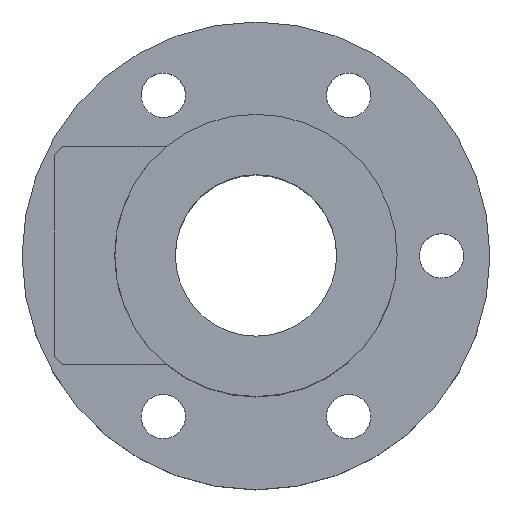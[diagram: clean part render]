
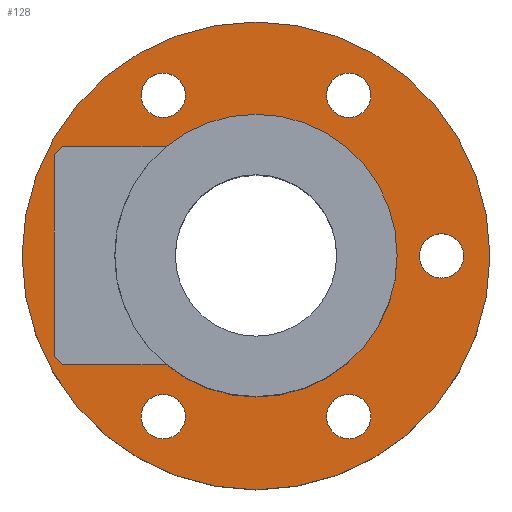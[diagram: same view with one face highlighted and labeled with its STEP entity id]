
A CAD part, top view. The second image highlights one B-rep face of the part: STEP entity #128.
In plain terms, the highlighted planar face has unit normal (0, 0, 1).
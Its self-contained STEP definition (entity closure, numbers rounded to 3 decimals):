
#97=PLANE('',#515);
#112=FACE_OUTER_BOUND('',#251,.T.);
#128=ADVANCED_FACE('',(#203,#204,#205,#112,#206,#207,#208),#97,.T.);
#203=FACE_BOUND('',#248,.T.);
#204=FACE_BOUND('',#249,.T.);
#205=FACE_BOUND('',#250,.T.);
#206=FACE_BOUND('',#252,.T.);
#207=FACE_BOUND('',#253,.T.);
#208=FACE_BOUND('',#254,.T.);
#248=EDGE_LOOP('',(#311));
#249=EDGE_LOOP('',(#312));
#250=EDGE_LOOP('',(#313));
#251=EDGE_LOOP('',(#314));
#252=EDGE_LOOP('',(#315));
#253=EDGE_LOOP('',(#316));
#254=EDGE_LOOP('',(#317));
#311=ORIENTED_EDGE('',*,*,#437,.F.);
#312=ORIENTED_EDGE('',*,*,#438,.F.);
#313=ORIENTED_EDGE('',*,*,#432,.F.);
#314=ORIENTED_EDGE('',*,*,#439,.T.);
#315=ORIENTED_EDGE('',*,*,#440,.F.);
#316=ORIENTED_EDGE('',*,*,#441,.F.);
#317=ORIENTED_EDGE('',*,*,#442,.F.);
#394=VERTEX_POINT('',#694);
#399=VERTEX_POINT('',#705);
#400=VERTEX_POINT('',#707);
#401=VERTEX_POINT('',#709);
#402=VERTEX_POINT('',#711);
#403=VERTEX_POINT('',#713);
#404=VERTEX_POINT('',#715);
#432=EDGE_CURVE('',#394,#394,#476,.T.);
#437=EDGE_CURVE('',#399,#399,#479,.T.);
#438=EDGE_CURVE('',#400,#400,#480,.T.);
#439=EDGE_CURVE('',#401,#401,#481,.T.);
#440=EDGE_CURVE('',#402,#402,#482,.T.);
#441=EDGE_CURVE('',#403,#403,#483,.T.);
#442=EDGE_CURVE('',#404,#404,#484,.T.);
#476=CIRCLE('',#505,17.5);
#479=CIRCLE('',#509,2.75);
#480=CIRCLE('',#510,2.75);
#481=CIRCLE('',#511,29.);
#482=CIRCLE('',#512,2.75);
#483=CIRCLE('',#513,2.75);
#484=CIRCLE('',#514,2.75);
#505=AXIS2_PLACEMENT_3D('',#693,#564,#565);
#509=AXIS2_PLACEMENT_3D('',#704,#574,#575);
#510=AXIS2_PLACEMENT_3D('',#706,#576,#577);
#511=AXIS2_PLACEMENT_3D('',#708,#578,#579);
#512=AXIS2_PLACEMENT_3D('',#710,#580,#581);
#513=AXIS2_PLACEMENT_3D('',#712,#582,#583);
#514=AXIS2_PLACEMENT_3D('',#714,#584,#585);
#515=AXIS2_PLACEMENT_3D('',#716,#586,#587);
#564=DIRECTION('',(0.,0.,1.));
#565=DIRECTION('',(1.,0.,0.));
#574=DIRECTION('',(0.,0.,1.));
#575=DIRECTION('',(-0.5,-0.866,0.));
#576=DIRECTION('',(0.,0.,1.));
#577=DIRECTION('',(0.5,0.866,0.));
#578=DIRECTION('',(0.,0.,1.));
#579=DIRECTION('',(1.,0.,0.));
#580=DIRECTION('',(0.,0.,1.));
#581=DIRECTION('',(1.,0.,0.));
#582=DIRECTION('',(0.,0.,1.));
#583=DIRECTION('',(-1.,0.,0.));
#584=DIRECTION('',(0.,0.,1.));
#585=DIRECTION('',(0.5,-0.866,0.));
#586=DIRECTION('',(0.,0.,1.));
#587=DIRECTION('',(1.,0.,0.));
#693=CARTESIAN_POINT('',(0.,0.,12.));
#694=CARTESIAN_POINT('',(17.5,0.,12.));
#704=CARTESIAN_POINT('',(11.5,-19.919,12.));
#705=CARTESIAN_POINT('',(10.125,-22.3,12.));
#706=CARTESIAN_POINT('',(-11.5,19.919,12.));
#707=CARTESIAN_POINT('',(-10.125,22.3,12.));
#708=CARTESIAN_POINT('',(0.,0.,12.));
#709=CARTESIAN_POINT('',(29.,0.,12.));
#710=CARTESIAN_POINT('',(11.5,19.919,12.));
#711=CARTESIAN_POINT('',(14.25,19.919,12.));
#712=CARTESIAN_POINT('',(-11.5,-19.919,12.));
#713=CARTESIAN_POINT('',(-14.25,-19.919,12.));
#714=CARTESIAN_POINT('',(23.,0.,12.));
#715=CARTESIAN_POINT('',(24.375,-2.382,12.));
#716=CARTESIAN_POINT('',(0.,0.,12.));
